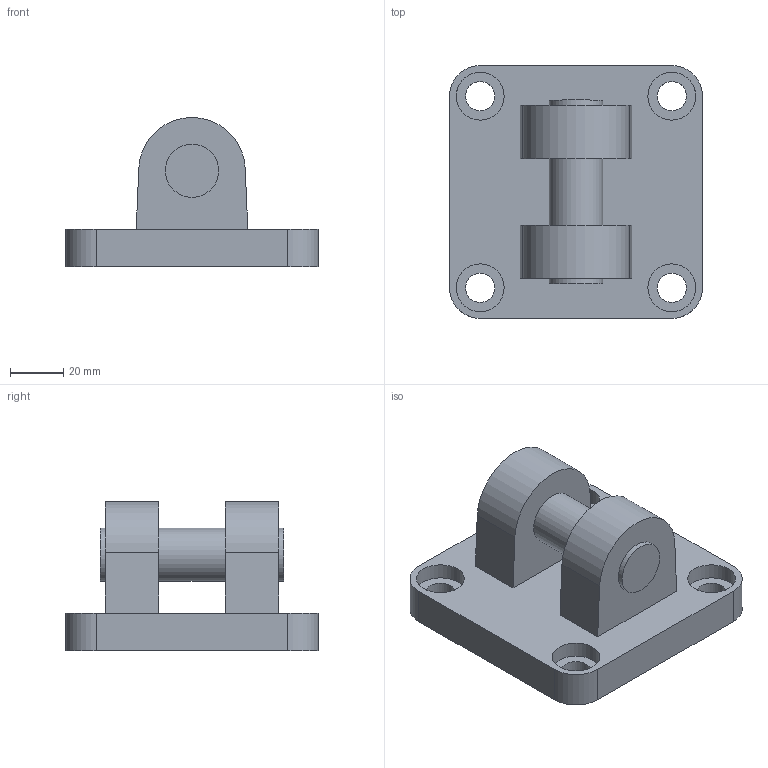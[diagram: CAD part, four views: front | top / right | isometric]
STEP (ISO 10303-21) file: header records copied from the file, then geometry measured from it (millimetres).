
FILE_DESCRIPTION((''),'2;1');
FILE_NAME('K:\A-Roberto\_Inventor\Rev.Librerie\FISSAGGI\1320_Ø_29F\STEP(1320_Ø_29F)\1320_80_29F.stp','2006-07-12T14:13:26',('rivolro1'),(''),'Autodesk Inventor 11','Autodesk Inventor 11','');
FILE_SCHEMA(('AUTOMOTIVE_DESIGN { 1 0 10303 214 1 1 1 1 }'));
Length unit declared in the file: millimetre
Products named in the file (1): 1320_80_29F
Bounding box: 95 x 95 x 56 mm (x, y, z)
Volume: 177985.6 mm3; surface area: 35187 mm2
Topology: 1 solids, 1 shells, 39 faces, 84 edges, 56 vertices
Faces by surface type: plane 16, bspline 14, cylinder 9
Full cylindrical faces by diameter (mm): 20 x3
Entity records: 1174 total; most frequent: CARTESIAN_POINT 336, DIRECTION 160, ORIENTED_EDGE 144, EDGE_CURVE 72, EDGE_LOOP 70, AXIS2_PLACEMENT_3D 62, VERTEX_POINT 56, FACE_OUTER_BOUND 39
